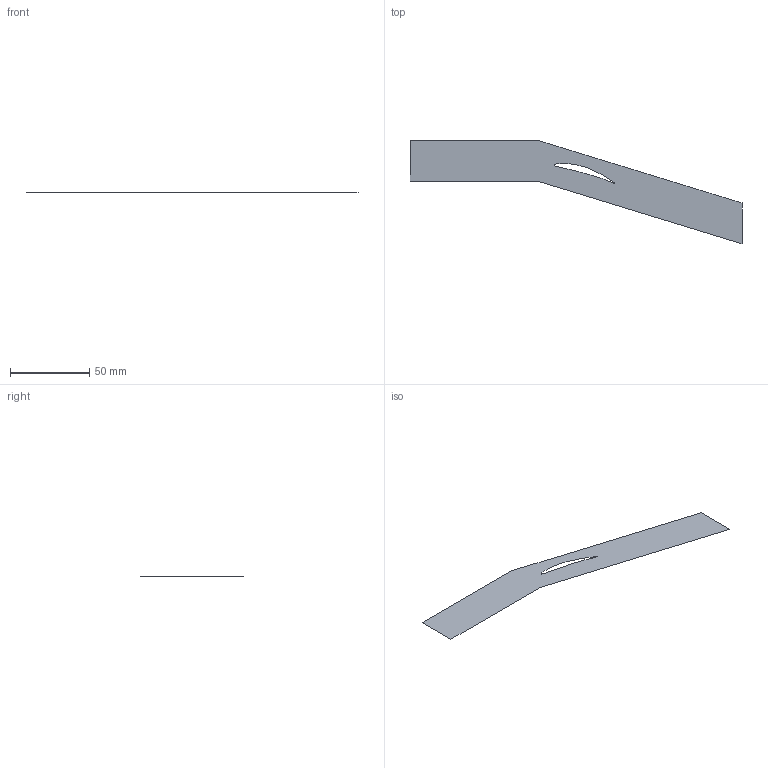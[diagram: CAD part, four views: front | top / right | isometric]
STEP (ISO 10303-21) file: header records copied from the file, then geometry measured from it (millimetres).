
FILE_DESCRIPTION (( 'STEP AP214' ), '1' );
FILE_NAME ('compressore_assiale.STEP', '2020-11-24T15:02:06', ( '' ), ( '' ), 'SwSTEP 2.0', 'SolidWorks 2016', '' );
FILE_SCHEMA (( 'AUTOMOTIVE_DESIGN' ));
Length unit declared in the file: millimetre
Products named in the file (1): compressore_assiale
Bounding box: 208.86 x 65.04 x 0 mm (x, y, z)
Surface area: 5250.1 mm2 (no closed solid volume)
Topology: 0 solids, 1 shells, 1 faces, 8 edges, 8 vertices
Faces by surface type: plane 1
Entity records: 161 total; most frequent: CARTESIAN_POINT 67, DIRECTION 10, ORIENTED_EDGE 8, EDGE_CURVE 8, VERTEX_POINT 8, LINE 6, VECTOR 6, UNCERTAINTY_MEASURE_WITH_UNIT 3
